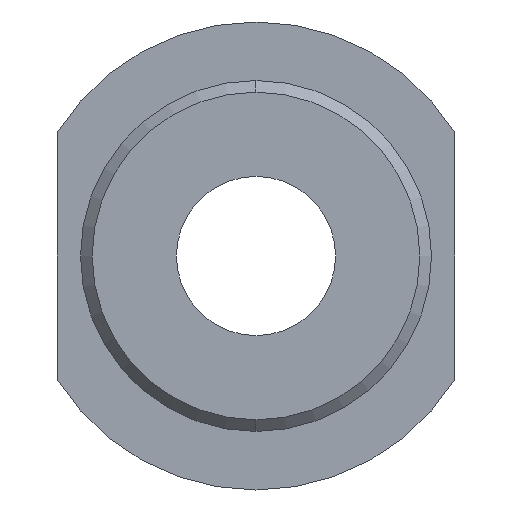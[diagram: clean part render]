
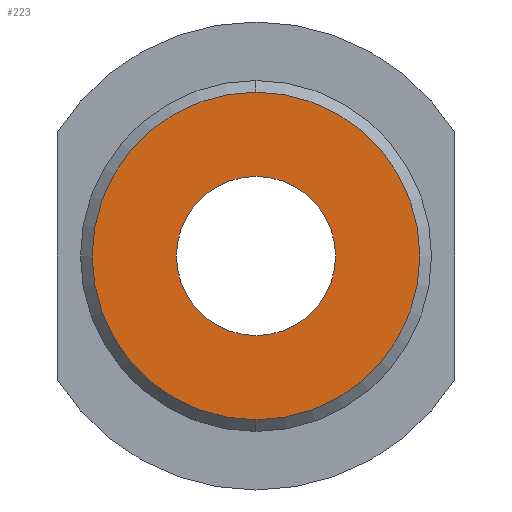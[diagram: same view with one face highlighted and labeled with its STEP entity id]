
A CAD part, left-side view. The second image highlights one B-rep face of the part: STEP entity #223.
In plain terms, the highlighted planar face has unit normal (-1, 0, 0).
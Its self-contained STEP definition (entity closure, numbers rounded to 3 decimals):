
#43 = CARTESIAN_POINT ( 'NONE',  ( 0., 0., 0. ) ) ;
#61 = EDGE_CURVE ( 'NONE', #609, #611, #533, .T. ) ;
#66 = ORIENTED_EDGE ( 'NONE', *, *, #61, .T. ) ;
#69 = AXIS2_PLACEMENT_3D ( 'NONE', #517, #399, #332 ) ;
#70 = CARTESIAN_POINT ( 'NONE',  ( 0., 0., 0. ) ) ;
#82 = AXIS2_PLACEMENT_3D ( 'NONE', #300, #791, #487 ) ;
#95 = EDGE_LOOP ( 'NONE', ( #493, #600 ) ) ;
#141 = DIRECTION ( 'NONE',  ( 0., 0., -1. ) ) ;
#155 = PLANE ( 'NONE',  #69 ) ;
#177 = VERTEX_POINT ( 'NONE', #633 ) ;
#223 = ADVANCED_FACE ( 'NONE', ( #792, #409 ), #155, .F. ) ;
#246 = DIRECTION ( 'NONE',  ( 0., 0., -1. ) ) ;
#248 = AXIS2_PLACEMENT_3D ( 'NONE', #558, #322, #141 ) ;
#250 = DIRECTION ( 'NONE',  ( 1., 0., 0. ) ) ;
#278 = VERTEX_POINT ( 'NONE', #284 ) ;
#284 = CARTESIAN_POINT ( 'NONE',  ( 0., 0., -3.4 ) ) ;
#300 = CARTESIAN_POINT ( 'NONE',  ( 0., 0., 0. ) ) ;
#308 = CIRCLE ( 'NONE', #329, 3.4 ) ;
#322 = DIRECTION ( 'NONE',  ( -1., 0., 0. ) ) ;
#327 = AXIS2_PLACEMENT_3D ( 'NONE', #43, #411, #592 ) ;
#329 = AXIS2_PLACEMENT_3D ( 'NONE', #70, #250, #246 ) ;
#332 = DIRECTION ( 'NONE',  ( 0., 0., -1. ) ) ;
#399 = DIRECTION ( 'NONE',  ( 1., 0., 0. ) ) ;
#409 = FACE_OUTER_BOUND ( 'NONE', #624, .T. ) ;
#411 = DIRECTION ( 'NONE',  ( -1., 0., 0. ) ) ;
#470 = EDGE_CURVE ( 'NONE', #177, #278, #720, .T. ) ;
#487 = DIRECTION ( 'NONE',  ( 0., 0., -1. ) ) ;
#493 = ORIENTED_EDGE ( 'NONE', *, *, #641, .T. ) ;
#517 = CARTESIAN_POINT ( 'NONE',  ( 0., 7.5, 0. ) ) ;
#533 = CIRCLE ( 'NONE', #248, 7. ) ;
#550 = CARTESIAN_POINT ( 'NONE',  ( 0., 0., 7. ) ) ;
#558 = CARTESIAN_POINT ( 'NONE',  ( 0., 0., 0. ) ) ;
#560 = ORIENTED_EDGE ( 'NONE', *, *, #785, .T. ) ;
#592 = DIRECTION ( 'NONE',  ( 0., 0., -1. ) ) ;
#600 = ORIENTED_EDGE ( 'NONE', *, *, #470, .T. ) ;
#609 = VERTEX_POINT ( 'NONE', #550 ) ;
#611 = VERTEX_POINT ( 'NONE', #619 ) ;
#619 = CARTESIAN_POINT ( 'NONE',  ( 0., 0., -7. ) ) ;
#624 = EDGE_LOOP ( 'NONE', ( #560, #66 ) ) ;
#633 = CARTESIAN_POINT ( 'NONE',  ( 0., 0., 3.4 ) ) ;
#641 = EDGE_CURVE ( 'NONE', #278, #177, #308, .T. ) ;
#720 = CIRCLE ( 'NONE', #82, 3.4 ) ;
#739 = CIRCLE ( 'NONE', #327, 7. ) ;
#785 = EDGE_CURVE ( 'NONE', #611, #609, #739, .T. ) ;
#791 = DIRECTION ( 'NONE',  ( 1., 0., 0. ) ) ;
#792 = FACE_BOUND ( 'NONE', #95, .T. ) ;
